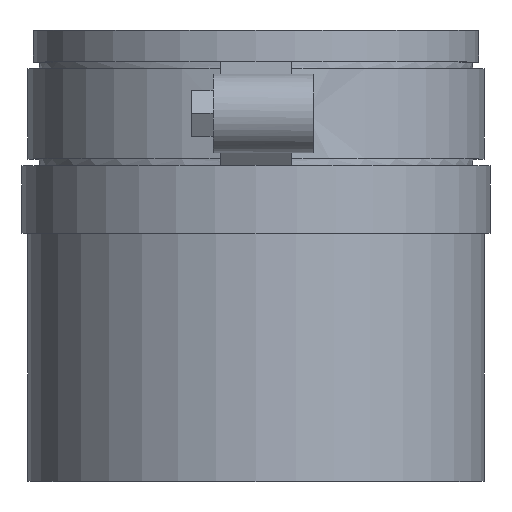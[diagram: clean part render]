
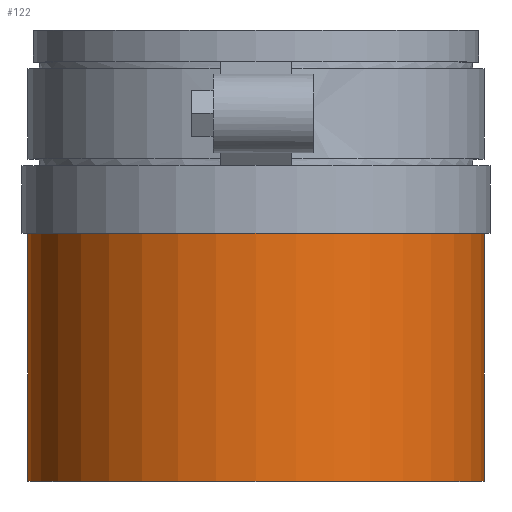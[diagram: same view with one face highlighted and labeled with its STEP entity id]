
A CAD part, top view. The second image highlights one B-rep face of the part: STEP entity #122.
In plain terms, the highlighted cylindrical face has radius 31.9 mm (diameter 63.8 mm), a full revolution.
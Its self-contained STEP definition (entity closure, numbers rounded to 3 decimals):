
#122 = ADVANCED_FACE( '', ( #275, #276 ), #277, .T. );
#275 = FACE_OUTER_BOUND( '', #459, .T. );
#276 = FACE_OUTER_BOUND( '', #460, .T. );
#277 = CYLINDRICAL_SURFACE( '', #461, 31.9 );
#459 = EDGE_LOOP( '', ( #749 ) );
#460 = EDGE_LOOP( '', ( #750 ) );
#461 = AXIS2_PLACEMENT_3D( '', #751, #752, #753 );
#749 = ORIENTED_EDGE( '', *, *, #1124, .F. );
#750 = ORIENTED_EDGE( '', *, *, #1125, .T. );
#751 = CARTESIAN_POINT( '', ( 0., 0., 0. ) );
#752 = DIRECTION( '', ( 0., 1., 0. ) );
#753 = DIRECTION( '', ( 0., 0., -1. ) );
#1124 = EDGE_CURVE( '', #1370, #1370, #1371, .T. );
#1125 = EDGE_CURVE( '', #1372, #1372, #1373, .T. );
#1370 = VERTEX_POINT( '', #1699 );
#1371 = CIRCLE( '', #1700, 31.9 );
#1372 = VERTEX_POINT( '', #1701 );
#1373 = CIRCLE( '', #1702, 31.9 );
#1699 = CARTESIAN_POINT( '', ( 0., 0., -31.9 ) );
#1700 = AXIS2_PLACEMENT_3D( '', #2006, #2007, #2008 );
#1701 = CARTESIAN_POINT( '', ( 0., 34.65, -31.9 ) );
#1702 = AXIS2_PLACEMENT_3D( '', #2009, #2010, #2011 );
#2006 = CARTESIAN_POINT( '', ( 0., 0., 0. ) );
#2007 = DIRECTION( '', ( 0., -1., 0. ) );
#2008 = DIRECTION( '', ( 0., 0., -1. ) );
#2009 = CARTESIAN_POINT( '', ( 0., 34.65, 0. ) );
#2010 = DIRECTION( '', ( 0., -1., 0. ) );
#2011 = DIRECTION( '', ( 0., 0., -1. ) );
